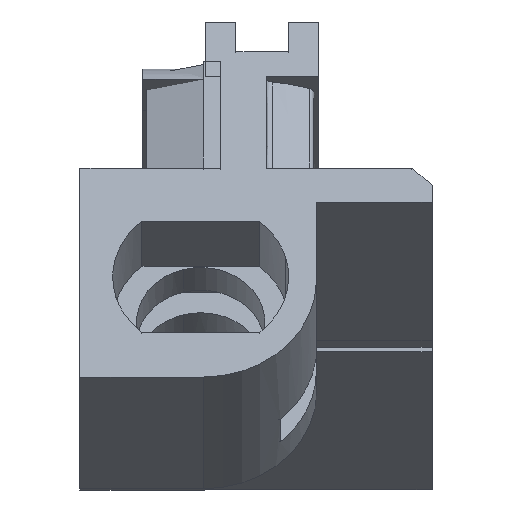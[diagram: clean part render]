
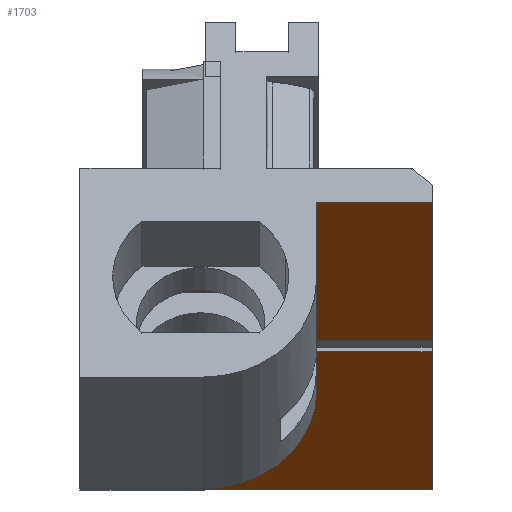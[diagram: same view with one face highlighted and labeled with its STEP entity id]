
A CAD part, left-side view. The second image highlights one B-rep face of the part: STEP entity #1703.
In plain terms, the highlighted planar face has unit normal (-0.529, 0, -0.849).
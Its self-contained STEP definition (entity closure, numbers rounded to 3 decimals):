
#1596=AXIS2_PLACEMENT_3D('Plane Axis2P3D',#1593,#1594,#1595) ;
#1382=CARTESIAN_POINT('Vertex',(-1847.763,4.71,127.282)) ;
#1385=CARTESIAN_POINT('Line Origine',(-1853.377,5.636,130.781)) ;
#1389=CARTESIAN_POINT('Vertex',(-1858.991,6.562,134.28)) ;
#1464=CARTESIAN_POINT('Line Origine',(-1862.556,9.65,136.502)) ;
#1468=CARTESIAN_POINT('Vertex',(-1860.349,9.65,135.127)) ;
#1470=CARTESIAN_POINT('Vertex',(-1864.762,9.65,137.877)) ;
#1511=CARTESIAN_POINT('Line Origine',(-1858.991,3.406,134.28)) ;
#1515=CARTESIAN_POINT('Vertex',(-1858.991,0.25,134.28)) ;
#1593=CARTESIAN_POINT('Axis2P3D Location',(-1862.513,-0.65,136.475)) ;
#1598=CARTESIAN_POINT('Line Origine',(-1847.763,0.18,127.282)) ;
#1602=CARTESIAN_POINT('Vertex',(-1847.763,-4.35,127.282)) ;
#1605=CARTESIAN_POINT('Line Origine',(-1852.177,-4.35,130.033)) ;
#1609=CARTESIAN_POINT('Vertex',(-1856.592,-4.35,132.785)) ;
#1612=CARTESIAN_POINT('Line Origine',(-1856.592,-1.85,132.785)) ;
#1616=CARTESIAN_POINT('Vertex',(-1856.592,0.65,132.785)) ;
#1619=CARTESIAN_POINT('Line Origine',(-1856.932,0.65,132.997)) ;
#1623=CARTESIAN_POINT('Vertex',(-1857.271,0.65,133.208)) ;
#1626=CARTESIAN_POINT('Line Origine',(-1857.271,-1.85,133.208)) ;
#1630=CARTESIAN_POINT('Vertex',(-1857.271,-4.35,133.208)) ;
#1633=CARTESIAN_POINT('Line Origine',(-1861.695,-4.35,135.966)) ;
#1637=CARTESIAN_POINT('Vertex',(-1866.12,-4.35,138.723)) ;
#1640=CARTESIAN_POINT('Line Origine',(-1866.12,-2.05,138.723)) ;
#1644=CARTESIAN_POINT('Vertex',(-1866.12,0.25,138.723)) ;
#1647=CARTESIAN_POINT('Line Origine',(-1863.955,0.25,137.374)) ;
#1651=CARTESIAN_POINT('Vertex',(-1861.791,0.25,136.025)) ;
#1654=CARTESIAN_POINT('Line Origine',(-1861.791,4.293,136.026)) ;
#1658=CARTESIAN_POINT('Vertex',(-1861.792,8.337,136.026)) ;
#1661=CARTESIAN_POINT('Line Origine',(-1863.277,8.337,136.951)) ;
#1665=CARTESIAN_POINT('Vertex',(-1864.762,8.337,137.877)) ;
#1668=CARTESIAN_POINT('Line Origine',(-1864.762,8.993,137.877)) ;
#1673=CARTESIAN_POINT('Line Origine',(-1860.349,4.95,135.126)) ;
#1677=CARTESIAN_POINT('Vertex',(-1860.348,0.25,135.126)) ;
#1680=CARTESIAN_POINT('Line Origine',(-1859.67,0.25,134.703)) ;
#1386=DIRECTION('Vector Direction',(-0.84,0.139,0.524)) ;
#1465=DIRECTION('Vector Direction',(-0.849,0.,0.529)) ;
#1512=DIRECTION('Vector Direction',(0.,1.,0.)) ;
#1594=DIRECTION('Axis2P3D Direction',(-0.529,0.,-0.849)) ;
#1595=DIRECTION('Axis2P3D XDirection',(0.,-1.,0.)) ;
#1599=DIRECTION('Vector Direction',(0.,-1.,0.)) ;
#1606=DIRECTION('Vector Direction',(-0.849,0.,0.529)) ;
#1613=DIRECTION('Vector Direction',(0.,-1.,0.)) ;
#1620=DIRECTION('Vector Direction',(0.849,0.,-0.529)) ;
#1627=DIRECTION('Vector Direction',(0.,1.,0.)) ;
#1634=DIRECTION('Vector Direction',(-0.849,0.,0.529)) ;
#1641=DIRECTION('Vector Direction',(0.,-1.,0.)) ;
#1648=DIRECTION('Vector Direction',(-0.849,0.,0.529)) ;
#1655=DIRECTION('Vector Direction',(0.,-1.,0.)) ;
#1662=DIRECTION('Vector Direction',(0.849,0.,-0.529)) ;
#1669=DIRECTION('Vector Direction',(0.,1.,0.)) ;
#1674=DIRECTION('Vector Direction',(0.,1.,0.)) ;
#1681=DIRECTION('Vector Direction',(-0.849,0.,0.529)) ;
#1387=VECTOR('Line Direction',#1386,1.) ;
#1466=VECTOR('Line Direction',#1465,1.) ;
#1513=VECTOR('Line Direction',#1512,1.) ;
#1600=VECTOR('Line Direction',#1599,1.) ;
#1607=VECTOR('Line Direction',#1606,1.) ;
#1614=VECTOR('Line Direction',#1613,1.) ;
#1621=VECTOR('Line Direction',#1620,1.) ;
#1628=VECTOR('Line Direction',#1627,1.) ;
#1635=VECTOR('Line Direction',#1634,1.) ;
#1642=VECTOR('Line Direction',#1641,1.) ;
#1649=VECTOR('Line Direction',#1648,1.) ;
#1656=VECTOR('Line Direction',#1655,1.) ;
#1663=VECTOR('Line Direction',#1662,1.) ;
#1670=VECTOR('Line Direction',#1669,1.) ;
#1675=VECTOR('Line Direction',#1674,1.) ;
#1682=VECTOR('Line Direction',#1681,1.) ;
#1686=ORIENTED_EDGE('',*,*,#1391,.F.) ;
#1687=ORIENTED_EDGE('',*,*,#1604,.T.) ;
#1688=ORIENTED_EDGE('',*,*,#1611,.T.) ;
#1689=ORIENTED_EDGE('',*,*,#1618,.F.) ;
#1690=ORIENTED_EDGE('',*,*,#1625,.F.) ;
#1691=ORIENTED_EDGE('',*,*,#1632,.F.) ;
#1692=ORIENTED_EDGE('',*,*,#1639,.T.) ;
#1693=ORIENTED_EDGE('',*,*,#1646,.F.) ;
#1694=ORIENTED_EDGE('',*,*,#1653,.F.) ;
#1695=ORIENTED_EDGE('',*,*,#1660,.F.) ;
#1696=ORIENTED_EDGE('',*,*,#1667,.T.) ;
#1697=ORIENTED_EDGE('',*,*,#1672,.T.) ;
#1698=ORIENTED_EDGE('',*,*,#1472,.F.) ;
#1699=ORIENTED_EDGE('',*,*,#1679,.F.) ;
#1700=ORIENTED_EDGE('',*,*,#1684,.F.) ;
#1701=ORIENTED_EDGE('',*,*,#1517,.T.) ;
#1703=ADVANCED_FACE('573.4601.04_V1.1\\Brep With Voids',(#1702),#1597,.T.) ;
#1391=EDGE_CURVE('',#1383,#1390,#1388,.T.) ;
#1472=EDGE_CURVE('',#1469,#1471,#1467,.T.) ;
#1517=EDGE_CURVE('',#1516,#1390,#1514,.T.) ;
#1604=EDGE_CURVE('',#1383,#1603,#1601,.T.) ;
#1611=EDGE_CURVE('',#1603,#1610,#1608,.T.) ;
#1618=EDGE_CURVE('',#1617,#1610,#1615,.T.) ;
#1625=EDGE_CURVE('',#1624,#1617,#1622,.T.) ;
#1632=EDGE_CURVE('',#1631,#1624,#1629,.T.) ;
#1639=EDGE_CURVE('',#1631,#1638,#1636,.T.) ;
#1646=EDGE_CURVE('',#1645,#1638,#1643,.T.) ;
#1653=EDGE_CURVE('',#1652,#1645,#1650,.T.) ;
#1660=EDGE_CURVE('',#1659,#1652,#1657,.T.) ;
#1667=EDGE_CURVE('',#1659,#1666,#1664,.F.) ;
#1672=EDGE_CURVE('',#1666,#1471,#1671,.T.) ;
#1679=EDGE_CURVE('',#1678,#1469,#1676,.T.) ;
#1684=EDGE_CURVE('',#1516,#1678,#1683,.T.) ;
#1685=EDGE_LOOP('',(#1686,#1687,#1688,#1689,#1690,#1691,#1692,#1693,#1694,#1695,#1696,#1697,#1698,#1699,#1700,#1701)) ;
#1702=FACE_OUTER_BOUND('',#1685,.T.) ;
#1388=LINE('Line',#1385,#1387) ;
#1467=LINE('Line',#1464,#1466) ;
#1514=LINE('Line',#1511,#1513) ;
#1601=LINE('Line',#1598,#1600) ;
#1608=LINE('Line',#1605,#1607) ;
#1615=LINE('Line',#1612,#1614) ;
#1622=LINE('Line',#1619,#1621) ;
#1629=LINE('Line',#1626,#1628) ;
#1636=LINE('Line',#1633,#1635) ;
#1643=LINE('Line',#1640,#1642) ;
#1650=LINE('Line',#1647,#1649) ;
#1657=LINE('Line',#1654,#1656) ;
#1664=LINE('Line',#1661,#1663) ;
#1671=LINE('Line',#1668,#1670) ;
#1676=LINE('Line',#1673,#1675) ;
#1683=LINE('Line',#1680,#1682) ;
#1597=PLANE('Plane',#1596) ;
#1383=VERTEX_POINT('',#1382) ;
#1390=VERTEX_POINT('',#1389) ;
#1469=VERTEX_POINT('',#1468) ;
#1471=VERTEX_POINT('',#1470) ;
#1516=VERTEX_POINT('',#1515) ;
#1603=VERTEX_POINT('',#1602) ;
#1610=VERTEX_POINT('',#1609) ;
#1617=VERTEX_POINT('',#1616) ;
#1624=VERTEX_POINT('',#1623) ;
#1631=VERTEX_POINT('',#1630) ;
#1638=VERTEX_POINT('',#1637) ;
#1645=VERTEX_POINT('',#1644) ;
#1652=VERTEX_POINT('',#1651) ;
#1659=VERTEX_POINT('',#1658) ;
#1666=VERTEX_POINT('',#1665) ;
#1678=VERTEX_POINT('',#1677) ;
